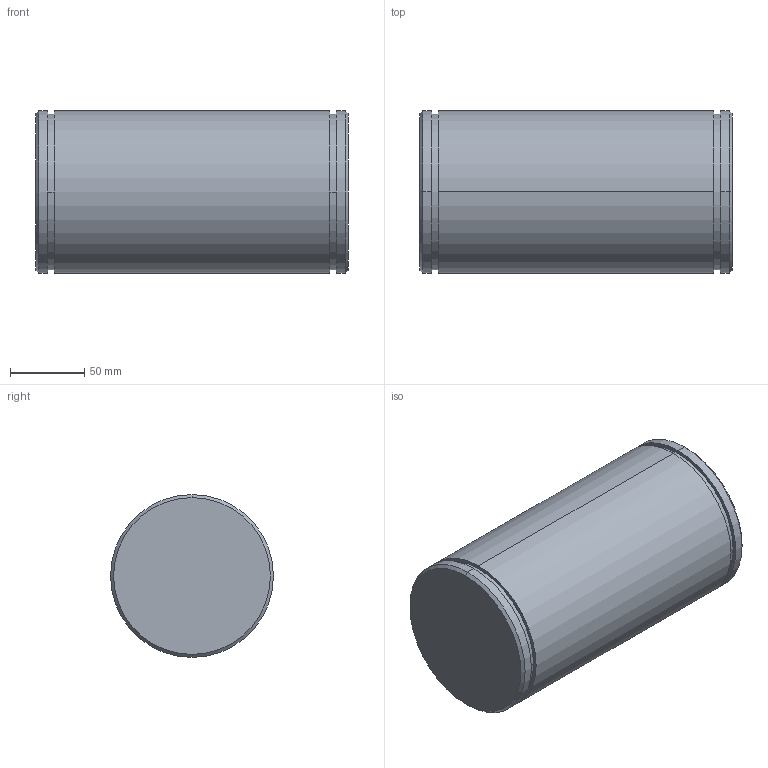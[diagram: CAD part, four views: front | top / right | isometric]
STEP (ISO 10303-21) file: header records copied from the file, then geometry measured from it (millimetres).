
FILE_DESCRIPTION (( 'STEP AP203' ), '1' );
FILE_NAME ('Bolzen Sicherungsring B M100.STEP', '2018-02-22T05:43:47', ( 'install' ), ( 'Hewlett-Packard Company' ), 'SwSTEP 2.0', 'SolidWorks 2017', '' );
FILE_SCHEMA (( 'CONFIG_CONTROL_DESIGN' ));
Length unit declared in the file: millimetre
Products named in the file (1): Bolzen Sicherungsring B M100
Bounding box: 211.2 x 110 x 110 mm (x, y, z)
Volume: 1998136.4 mm3; surface area: 94407.8 mm2
Topology: 1 solids, 1 shells, 20 faces, 38 edges, 24 vertices
Faces by surface type: cylinder 10, plane 6, cone 4
Entity records: 591 total; most frequent: DIRECTION 104, CARTESIAN_POINT 83, ORIENTED_EDGE 76, AXIS2_PLACEMENT_3D 45, EDGE_CURVE 38, VERTEX_POINT 24, EDGE_LOOP 24, CIRCLE 24
